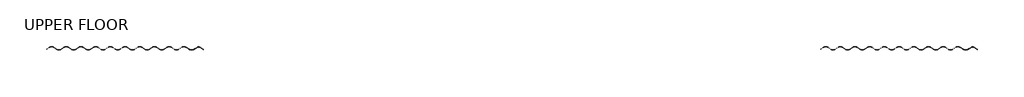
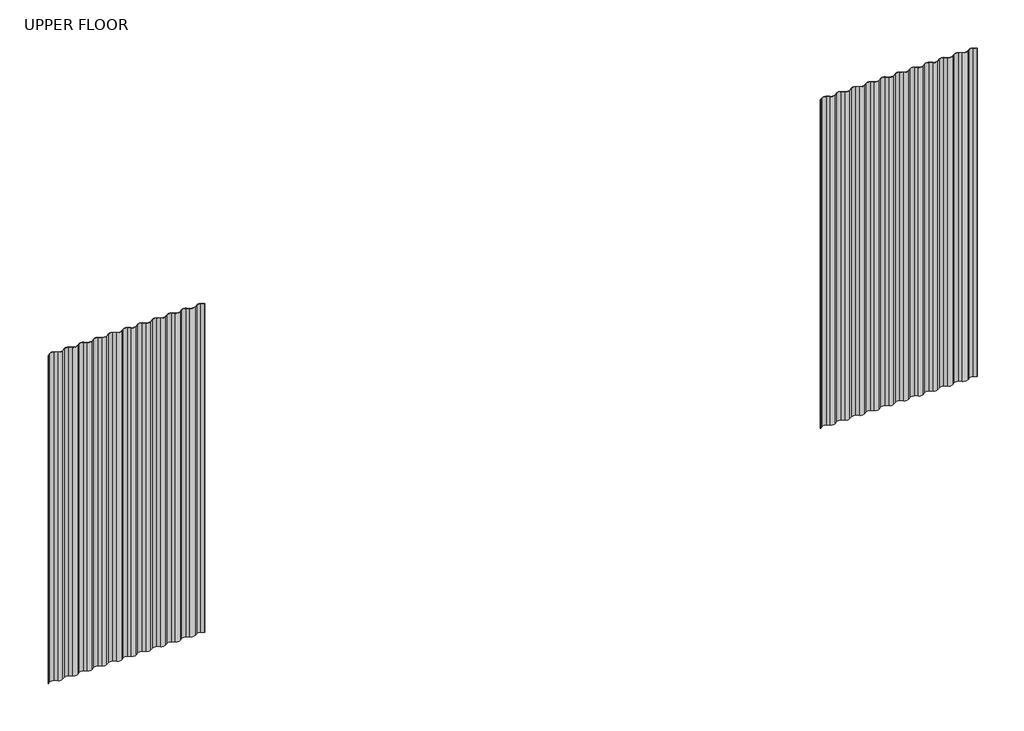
# One storey, incomplete: 2 beams.
"""IFC4 building model written with IfcOpenShell, lengths in millimetres."""

from ifc_helpers import new_model, si_unit, origin, place, context, project, spatial, transform, mapped, element, save
from components import beam_4e474429

model = new_model("IFC4")

# Units and contexts
model_context = context("Model", 3, world=origin())
ifc_project = project(units=[si_unit("LENGTHUNIT", "METRE", prefix="MILLI")], contexts=[model_context])

# Site, building, storey
site = spatial("IfcSite", under=ifc_project)
building = spatial("IfcBuilding", under=site)
storey = spatial("IfcBuildingStorey", under=building, Name="UPPER FLOOR", Elevation=2700.0)

# Beams
placement = place(None, origin())
beam_shape = beam_4e474429(model_context)
element("IfcBeam", 1, ObjectType="3D_Metalcraft Corrugate : Corrugate", at=placement, inside=storey, context=model_context, shape_type="MappedRepresentation", body=[
    mapped(beam_shape, transform((14721.2291786, 658.9410682, -846.662203), x_axis=(0.0, 0.0, 1.0), y_axis=(1.0, 0.0, 0.0), z_axis=(0.0, 1.0, 0.0))),
])
element("IfcBeam", 2, ObjectType="3D_Metalcraft Corrugate : Corrugate", at=placement, inside=storey, context=model_context, shape_type="MappedRepresentation", body=[
    mapped(beam_shape, transform((10719.9791786, 658.9410682, -846.662203), x_axis=(0.0, 0.0, 1.0), y_axis=(1.0, 0.0, 0.0), z_axis=(0.0, 1.0, 0.0))),
])

save(model, "model.ifc")
